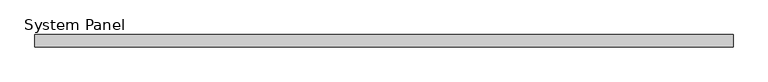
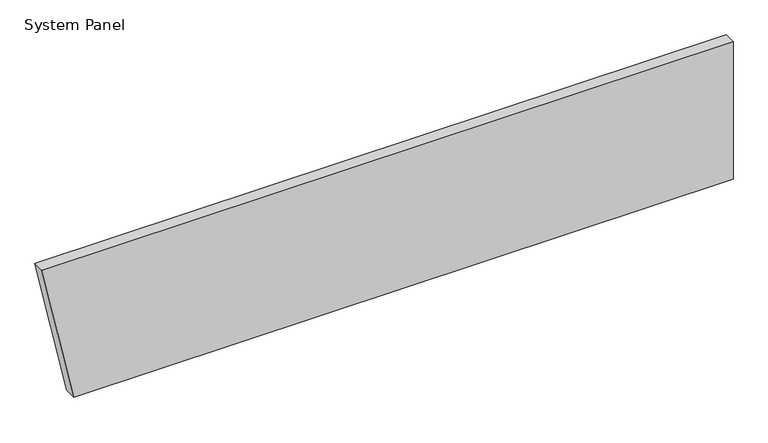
"""IFC4 building model written with IfcOpenShell, lengths in millimetres: plate geometry, System Panel : Equitilt 100mm Horizontal - Plain RHEA - MW."""

from ifc_helpers import new_model, si_unit, frame, origin, place, context, project, spatial, polyline, outline, extrude, source, transform, mapped, element, save


def system_panel_e1c3cb3b(model_context):
    return source(origin(), model_context, "Body", "SweptSolid", [
        extrude(outline(polyline([(0.0, -2590.0), (0.0, 2850.8716619), (1200.0, 2850.8716619), (1200.0, -2850.8716619), (0.0, -2590.0)])), frame((0.0, -100.0, 0.0), z_axis=(0.0, 1.0, 0.0), x_axis=(0.0, 0.0, 1.0)), (0.0, 0.0, 1.0), 100.0),
    ])


if __name__ == "__main__":
    model = new_model("IFC4")
    model_context = context("Model", 3, world=origin())
    ifc_project = project(units=[si_unit("LENGTHUNIT", "METRE", prefix="MILLI")], contexts=[model_context])
    site = spatial("IfcSite", under=ifc_project)
    building = spatial("IfcBuilding", under=site)
    placement = place(None, origin())
    system_panel_shape = system_panel_e1c3cb3b(model_context)
    element("IfcPlate", 1, ObjectType="System Panel : Equitilt 100mm Horizontal - Plain RHEA - MW", at=placement, inside=building, context=model_context, shape_type="MappedRepresentation", body=[
        mapped(system_panel_shape, transform((0.0, 0.0, 0.0), x_axis=(1.0, 0.0, 0.0), y_axis=(0.0, 1.0, 0.0), z_axis=(0.0, 0.0, 1.0))),
    ])
    save(model, "model.ifc")
